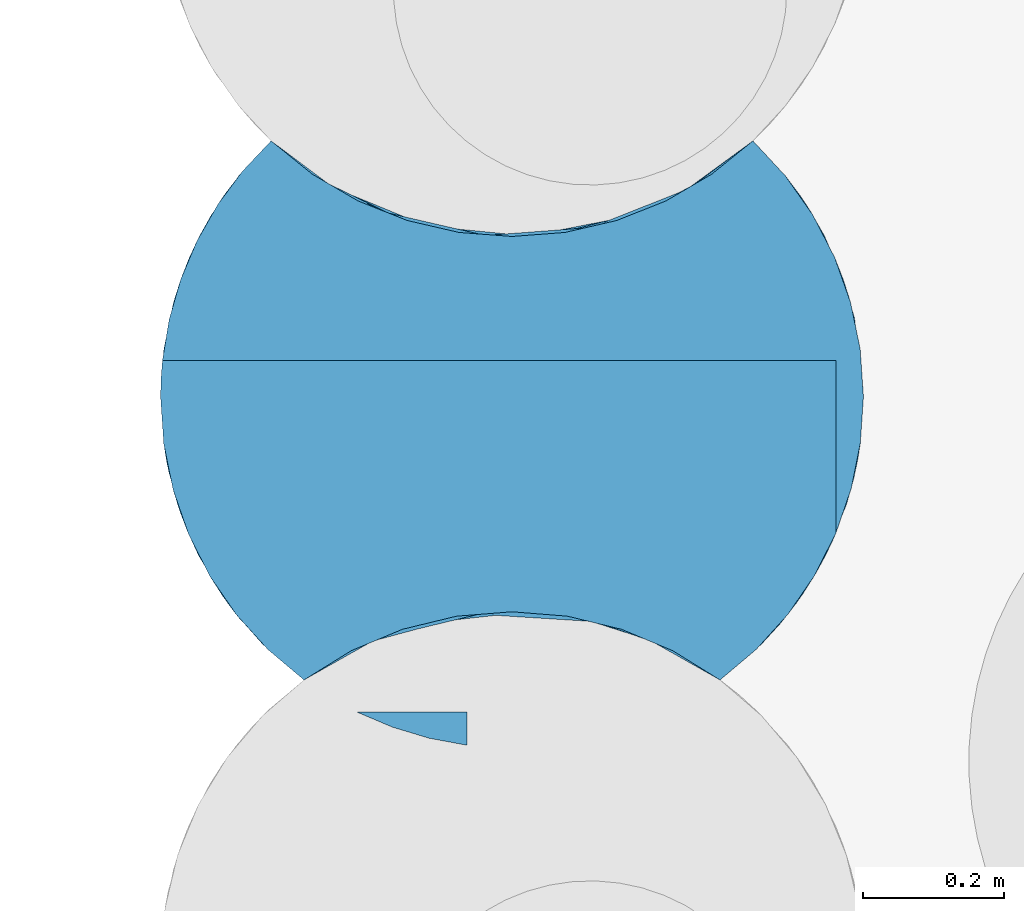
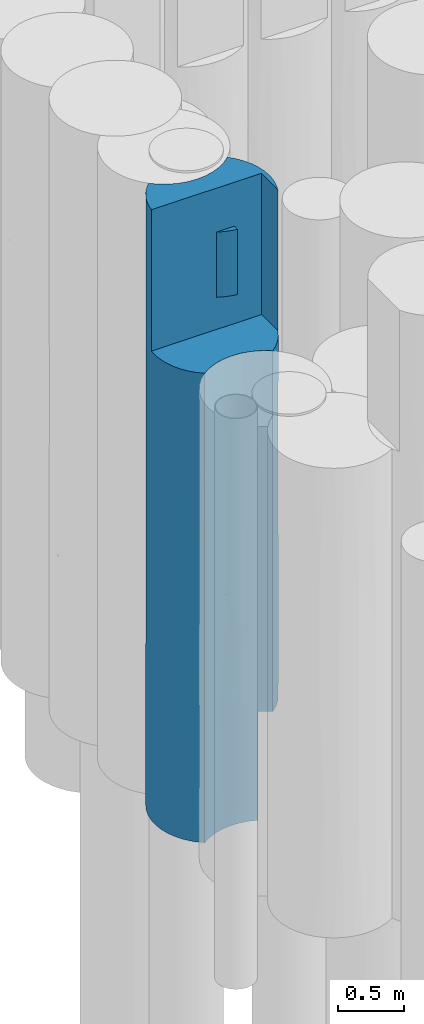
# One storey, part 33 of 104: 1 pile.
"""IFC2X3 building model written with IfcOpenShell, lengths in millimetres."""

from ifc_helpers import new_model, entity, si_unit, converted_unit, derived_unit, direction, frame, origin, place, context, subcontext, project, spatial, faceted_brep, source, transform, mapped, material, element, save


model = new_model("IFC2X3")

# Units and contexts
model_context = context("Model", 3, precision=0.01, world=origin(), true_north=direction((6.12303176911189e-17, 1.0)))
body_context = subcontext(model_context, "Body", "Model", "MODEL_VIEW")
ifc_project = project(units=[si_unit("LENGTHUNIT", "METRE", prefix="MILLI"), si_unit("AREAUNIT", "SQUARE_METRE", prefix="MILLI"), si_unit("VOLUMEUNIT", "CUBIC_METRE"), converted_unit("PLANEANGLEUNIT", "DEGREE", entity("IfcRatioMeasure", 0.0174532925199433), si_unit("PLANEANGLEUNIT", "RADIAN"), dimensions=[0, 0, 0, 0, 0, 0, 0]), si_unit("MASSUNIT", "GRAM", prefix="KILO"), derived_unit("MASSDENSITYUNIT", [(si_unit("MASSUNIT", "GRAM", prefix="KILO"), 1), (si_unit("LENGTHUNIT", "METRE"), -3)]), derived_unit("MOMENTOFINERTIAUNIT", [(si_unit("LENGTHUNIT", "METRE"), 4)]), si_unit("TIMEUNIT", "SECOND"), si_unit("FREQUENCYUNIT", "HERTZ"), si_unit("THERMODYNAMICTEMPERATUREUNIT", "DEGREE_CELSIUS"), derived_unit("THERMALTRANSMITTANCEUNIT", [(si_unit("MASSUNIT", "GRAM", prefix="KILO"), 1), (si_unit("THERMODYNAMICTEMPERATUREUNIT", "KELVIN"), -1), (si_unit("TIMEUNIT", "SECOND"), -3)]), derived_unit("VOLUMETRICFLOWRATEUNIT", [(si_unit("LENGTHUNIT", "METRE"), 3), (si_unit("TIMEUNIT", "SECOND"), -1)]), si_unit("ELECTRICCURRENTUNIT", "AMPERE"), si_unit("ELECTRICVOLTAGEUNIT", "VOLT"), si_unit("POWERUNIT", "WATT"), si_unit("FORCEUNIT", "NEWTON", prefix="KILO"), si_unit("ILLUMINANCEUNIT", "LUX"), si_unit("LUMINOUSFLUXUNIT", "LUMEN"), si_unit("LUMINOUSINTENSITYUNIT", "CANDELA"), derived_unit("USERDEFINED", [(si_unit("MASSUNIT", "GRAM", prefix="KILO"), -1), (si_unit("LENGTHUNIT", "METRE"), -2), (si_unit("TIMEUNIT", "SECOND"), 3), (si_unit("LUMINOUSFLUXUNIT", "LUMEN"), 1)]), derived_unit("LINEARVELOCITYUNIT", [(si_unit("LENGTHUNIT", "METRE"), 1), (si_unit("TIMEUNIT", "SECOND"), -1)]), si_unit("PRESSUREUNIT", "PASCAL"), derived_unit("USERDEFINED", [(si_unit("LENGTHUNIT", "METRE"), -2), (si_unit("MASSUNIT", "GRAM", prefix="KILO"), 1), (si_unit("TIMEUNIT", "SECOND"), -2)]), derived_unit("LINEARFORCEUNIT", [(si_unit("MASSUNIT", "GRAM", prefix="KILO"), 1), (si_unit("LENGTHUNIT", "METRE"), 1), (si_unit("TIMEUNIT", "SECOND"), -2), (si_unit("LENGTHUNIT", "METRE"), -1)]), derived_unit("PLANARFORCEUNIT", [(si_unit("MASSUNIT", "GRAM", prefix="KILO"), 1), (si_unit("LENGTHUNIT", "METRE"), 1), (si_unit("TIMEUNIT", "SECOND"), -2), (si_unit("LENGTHUNIT", "METRE"), -2)])], contexts=[model_context])

# Site, building, storey
site_placement = place(None, origin())
site = spatial("IfcSite", under=ifc_project, at=site_placement, Name="Theater aan de Parade", CompositionType="ELEMENT")
building_placement = place(site_placement, origin())
building = spatial("IfcBuilding", under=site, at=building_placement, Name="Theater aan de Parade", CompositionType="ELEMENT")
storey_placement = place(building_placement, frame((0.0, 0.0, -5520.0)))
storey = spatial("IfcBuildingStorey", under=building, at=storey_placement, Name="-2 kelder", CompositionType="ELEMENT", Elevation=-5520.0)

# Pile
ifc_material = material(Name="00_PBT_MAT_grout")
shared_shape = source(origin(), body_context, "Body", "Brep", [
    faceted_brep([(277.983647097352, 778.289463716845, 0.0), (345.360214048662, 750.536850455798, 0.0), (416.05429231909, 732.872245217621, 0.0), (488.564411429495, 725.670477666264, 0.0), (561.35061532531, 729.084188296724, 0.0), (632.867156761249, 743.040603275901, 0.0), (701.595316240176, 767.243095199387, 0.0), (701.595316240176, 149.758195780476, 0.0), (631.221534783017, 174.405431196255, 0.0), (557.963879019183, 188.313064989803, 0.0), (483.451164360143, 191.171328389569, 0.0), (409.34025628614, 182.91596070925, 0.0), (337.279288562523, 163.729676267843, 0.0), (268.872427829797, 134.038867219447, 0.0), (205.637504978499, 94.500645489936, 0.0), (146.540961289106, 145.454574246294, 0.0), (96.0889045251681, 204.986396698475, 0.0), (55.514075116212, 271.643244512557, 0.0), (25.8047976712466, 343.801509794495, 0.0), (7.6847395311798, 419.703565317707, 0.0), (1.5952722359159, 497.50064548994, 0.0), (6.20818208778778, 565.262219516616, 0.0), (19.955508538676, 631.750926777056, 0.0), (42.5833371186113, 695.763207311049, 0.0), (73.6726367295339, 756.116611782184, 0.0), (112.651085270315, 811.701885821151, 0.0), (158.806707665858, 861.500645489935, 0.0), (215.356100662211, 815.540724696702, 0.0), (844.383836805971, 861.500645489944, 2561.53757028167), (925.562729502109, 762.550820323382, 2004.37664659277), (890.538738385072, 811.702778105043, 1000.0), (844.383836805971, 861.500645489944, 1000.0), (960.612854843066, 695.750131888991, 1000.0), (973.014264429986, 664.126375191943, 2043.51621874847), (929.521362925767, 756.110894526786, 1000.0), (988.918247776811, 609.376994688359, 3074.84640733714), (946.092881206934, 726.458885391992, 2936.01181508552), (996.982276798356, 565.262845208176, 5620.0), (973.01057745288, 664.13680605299, 4223.55865313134), (983.235934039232, 631.747704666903, 5620.0), (1001.59527223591, 497.50064548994, 1000.0), (996.985169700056, 565.241692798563, 1000.0), (1001.59527223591, 497.50064548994, 2561.53772996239), (983.239874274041, 631.733567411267, 1000.0), (1001.59527223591, 497.50064548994, 5620.0), (1001.59527223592, 497.50064548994, 4123.0754599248), (921.086992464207, 769.579120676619, 3953.28672590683), (910.97924365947, 784.562945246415, 4807.59706393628), (844.383836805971, 861.500645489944, 5620.0), (890.546518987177, 811.693146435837, 5620.0), (1001.59527223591, 497.500645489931, 4058.46229404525), (1001.59527223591, 497.50064548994, 3310.0), (929.522999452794, 756.108186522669, 5620.0), (960.609902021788, 695.756968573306, 5620.0), (844.383836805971, 861.500645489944, 4123.07557016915), (39.2495698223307, 307.141901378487, 1085.47852696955), (10.5871918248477, 403.102208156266, 1230.87349493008), (108.514744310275, 188.489806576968, 1268.80770928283), (6.07384663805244, 430.728519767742, 4320.0), (1.5952722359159, 497.50064548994, 4320.0), (1.5952722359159, 497.50064548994, 3539.22668099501), (1.5952722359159, 497.50064548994, 2758.46161244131), (55.5152442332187, 271.640935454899, 2170.94919135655), (154.473180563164, 137.630872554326, 4320.0), (109.538421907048, 187.192047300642, 4320.0), (89.6582804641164, 214.114134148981, 3179.44495783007), (29.3565435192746, 333.212535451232, 3179.44239873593), (41.4053328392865, 301.987935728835, 4320.0), (205.63750497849, 94.500645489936, 1561.53770715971), (13.2670160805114, 390.097134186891, 2156.04284889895), (19.4236650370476, 365.173243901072, 4320.0), (114.108901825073, 181.503315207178, 2259.08321984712), (205.637504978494, 94.500645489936, 2758.46229284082), (205.637504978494, 94.500645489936, 3240.0), (205.637504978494, 94.500645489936, 4320.0), (71.6236476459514, 242.305813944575, 4320.0), (205.637504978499, 94.500645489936, 780.765851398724), (1.5952722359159, 497.50064548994, 1561.53838755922), (205.637504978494, 94.500645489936, 2160.0), (1.5952722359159, 497.50064548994, 1379.23134188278), (785.695330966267, 814.055440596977, 5620.0), (720.53458465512, 775.983596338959, 5620.0), (650.386060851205, 748.152448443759, 5620.0), (576.847851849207, 731.19603367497, 5620.0), (501.595272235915, 725.50064548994, 5620.0), (426.342692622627, 731.19603367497, 5620.0), (352.804483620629, 748.152448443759, 5620.0), (282.655959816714, 775.983596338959, 5620.0), (217.495213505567, 814.055440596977, 5620.0), (158.806707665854, 861.500645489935, 5620.0), (118.06502891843, 818.288039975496, 5620.0), (82.7473886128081, 770.569227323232, 5620.0), (53.3353113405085, 719.002355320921, 5620.0), (30.2422997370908, 664.313041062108, 5620.0), (13.7936272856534, 607.271111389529, 5620.0), (4.22225516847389, 548.68738101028, 5620.0), (437.737142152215, 548.68738101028, 5620.0), (962.737142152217, 548.68738101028, 5620.0), (962.737142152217, 304.243884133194, 5620.0), (984.195534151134, 366.745197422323, 5620.0), (997.224025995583, 431.529906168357, 5620.0), (380.385030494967, 740.415006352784, 924.275465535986), (158.806707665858, 861.500645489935, 1561.53277368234), (245.990356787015, 795.772676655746, 924.276593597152), (234.516339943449, 802.80827043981, 2528.73879673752), (311.165685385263, 763.184117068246, 1643.61885605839), (233.568091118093, 803.408913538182, 1720.94598732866), (249.356261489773, 793.788378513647, 4653.15154121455), (613.937329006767, 738.284818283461, 4657.58649053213), (753.83428304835, 793.788378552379, 4657.58649064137), (463.861374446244, 726.926525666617, 4239.53806968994), (568.099118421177, 729.94314282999, 3565.77493434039), (525.01978227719, 726.049654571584, 1444.27819300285), (229.918347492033, 805.748756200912, 3590.76885371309), (158.806707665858, 861.500645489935, 3123.09076306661), (158.806707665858, 861.500645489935, 4058.46722631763), (463.861374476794, 726.926525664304, 2816.1191413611), (317.204383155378, 760.742643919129, 3895.88208545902), (335.873418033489, 753.763147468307, 2764.08817655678), (335.46058122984, 753.908380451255, 4756.81311890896), (668.83807380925, 754.30021539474, 2439.8399368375), (744.325145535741, 788.371135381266, 2923.53519747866), (764.865708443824, 800.4257374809, 2048.02698245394), (701.595316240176, 767.243095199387, 1000.0), (605.974790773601, 736.517091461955, 894.949894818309), (685.986161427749, 760.742643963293, 3905.98762819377), (772.723458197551, 805.394103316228, 3773.13756015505), (800.501613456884, 824.682732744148, 1000.0), (414.783427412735, 733.094610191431, 1897.22784494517), (566.969314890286, 729.792833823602, 2589.73847091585), (752.696294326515, 793.125488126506, 1000.0), (158.806707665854, 861.500645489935, 2496.92232234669), (20.2907372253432, 632.947847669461, 926.687005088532), (19.303972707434, 629.391139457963, 3148.84671832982), (84.9997262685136, 773.993233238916, 2029.23114561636), (30.181655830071, 664.141583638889, 1803.28903709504), (40.9764307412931, 692.000729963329, 4282.56271257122), (4.22225516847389, 548.687381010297, 4320.0), (57.1024527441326, 726.46818340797, 982.700397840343), (2.25244985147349, 523.127696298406, 4320.0), (89.6901365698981, 780.93345800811, 3277.69343556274), (94.1078779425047, 787.248852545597, 4587.17417451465), (272.892689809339, 136.129849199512, 4320.0), (345.871157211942, 166.632206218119, 4320.0), (422.746620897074, 185.244395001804, 4320.0), (501.595272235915, 191.500645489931, 4320.0), (580.443923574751, 185.244395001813, 4320.0), (657.319387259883, 166.632206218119, 4320.0), (730.297854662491, 136.129849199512, 4320.0), (797.553039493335, 94.500645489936, 4320.0), (849.134821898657, 138.034010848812, 4320.0), (894.392773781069, 188.130118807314, 4320.0), (932.4900822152, 243.867716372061, 4320.0), (962.737142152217, 304.243884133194, 4320.0), (962.737142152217, 548.687381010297, 4320.0), (962.737142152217, 548.687381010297, 5020.0), (619.25027197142, 177.460830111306, 2675.35053062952), (618.769970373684, 177.576863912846, 1644.82954604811), (709.754986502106, 146.109854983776, 2171.15328983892), (520.760878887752, 191.133189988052, 1157.90862518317), (604.099971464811, 180.880647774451, 808.258389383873), (797.553039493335, 94.500645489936, 2561.53958617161), (694.412724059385, 152.826376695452, 3376.98180358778), (701.595316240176, 149.758195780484, 1000.0), (797.553039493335, 94.500645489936, 1000.0), (797.553039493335, 94.500645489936, 1780.76979308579), (751.108572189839, 124.793979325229, 1000.0), (462.047040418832, 189.934128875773, 3261.5512699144), (446.241595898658, 188.427169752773, 2151.88442833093), (372.951586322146, 174.668113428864, 1157.91149077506), (797.553039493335, 94.500645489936, 3440.76979308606), (287.845109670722, 143.508242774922, 862.855746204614), (308.777819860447, 152.826376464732, 2994.94020212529), (607.90940523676, 180.067227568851, 3514.2556970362), (298.523841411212, 148.405442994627, 1883.75005471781), (797.553039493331, 94.500645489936, 1879.22367025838), (797.553039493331, 94.500645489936, 2758.44734051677), (995.505941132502, 419.704429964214, 1000.0), (977.386267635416, 343.803122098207, 1000.0), (947.677598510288, 271.645474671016, 1000.0), (907.103557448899, 204.989054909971, 1000.0), (856.652419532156, 145.457434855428, 1000.0), (883.041137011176, 174.2375138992, 2157.57493787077), (948.634062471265, 273.544578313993, 2674.46087503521), (988.592794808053, 384.215990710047, 2935.76885282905), (958.625624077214, 294.711943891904, 3485.93669528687), (934.34701331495, 247.049191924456, 1840.34439177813), (987.92908925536, 381.39974789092, 1934.80000843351), (914.383263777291, 215.355161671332, 3409.36810700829), (987.053048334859, 377.789544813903, 3800.63573656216), (993.086140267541, 405.648989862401, 4627.10948217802)], [[[0, 1, 2, 3, 4, 5, 6, 7, 8, 9, 10, 11, 12, 13, 14, 15, 16, 17, 18, 19, 20, 21, 22, 23, 24, 25, 26, 27]], [[28, 29, 30]], [[28, 30, 31]], [[32, 29, 33]], [[32, 34, 29]], [[35, 33, 36]], [[37, 38, 39]], [[40, 41, 42]], [[41, 43, 33]], [[37, 44, 45]], [[33, 35, 42]], [[37, 45, 38]], [[38, 46, 47]], [[47, 48, 49]], [[43, 32, 33]], [[35, 45, 50, 51, 42]], [[49, 52, 47]], [[41, 33, 42]], [[36, 46, 38]], [[45, 35, 38]], [[38, 53, 39]], [[47, 53, 38]], [[36, 38, 35]], [[30, 29, 34]], [[36, 33, 29]], [[28, 36, 29]], [[46, 28, 54]], [[28, 46, 36]], [[48, 47, 54]], [[47, 52, 53]], [[54, 47, 46]], [[18, 55, 56]], [[15, 57, 16]], [[17, 57, 55]], [[57, 17, 16]], [[58, 59, 60, 61]], [[55, 57, 62]], [[63, 64, 65]], [[58, 61, 66]], [[66, 65, 67]], [[68, 57, 15]], [[66, 62, 65]], [[61, 69, 66]], [[58, 66, 70]], [[69, 55, 62]], [[71, 65, 62]], [[62, 57, 71]], [[63, 65, 72]], [[63, 72, 73, 74]], [[18, 17, 55]], [[64, 75, 65]], [[15, 14, 76, 68]], [[67, 65, 75]], [[67, 70, 66]], [[69, 62, 66]], [[69, 61, 77]], [[20, 19, 56]], [[55, 69, 56]], [[71, 68, 78, 72]], [[69, 77, 56]], [[68, 71, 57]], [[72, 65, 71]], [[56, 77, 79, 20]], [[18, 56, 19]], [[80, 81, 82, 83, 84, 85, 86, 87, 88, 89, 90, 91, 92, 93, 94, 95, 96, 97, 98, 99, 100, 44, 37, 39, 53, 52, 49, 48]], [[0, 101, 1]], [[102, 103, 26]], [[104, 105, 106]], [[107, 88, 87]], [[103, 105, 101]], [[83, 108, 84]], [[54, 109, 48]], [[27, 26, 103]], [[110, 108, 111]], [[110, 85, 84]], [[103, 101, 0]], [[109, 80, 48]], [[108, 82, 81, 109]], [[112, 4, 3]], [[113, 114, 115]], [[116, 117, 110]], [[106, 105, 103]], [[113, 118, 104]], [[119, 107, 87]], [[120, 121, 122]], [[123, 120, 122]], [[2, 101, 3]], [[5, 124, 123]], [[107, 115, 89]], [[125, 111, 108]], [[5, 123, 6]], [[126, 109, 54]], [[119, 117, 107]], [[122, 28, 31]], [[119, 86, 85]], [[101, 112, 3]], [[108, 109, 125]], [[119, 87, 86]], [[0, 27, 103]], [[120, 124, 112]], [[127, 122, 31]], [[110, 84, 108]], [[5, 4, 124]], [[118, 128, 105]], [[109, 81, 80]], [[2, 1, 101]], [[125, 120, 111]], [[101, 105, 128]], [[125, 109, 126]], [[83, 82, 108]], [[116, 112, 128]], [[88, 107, 89]], [[115, 107, 113]], [[111, 116, 110]], [[120, 129, 111]], [[129, 116, 111]], [[122, 130, 123]], [[101, 128, 112]], [[117, 116, 118]], [[128, 118, 116]], [[113, 117, 118]], [[104, 114, 113]], [[117, 113, 107]], [[104, 102, 131, 114]], [[104, 118, 105]], [[120, 125, 121]], [[126, 54, 28]], [[119, 110, 117]], [[110, 119, 85]], [[106, 102, 104]], [[106, 103, 102]], [[129, 112, 116]], [[129, 120, 112]], [[123, 124, 120]], [[112, 124, 4]], [[130, 122, 127]], [[126, 28, 121]], [[122, 121, 28]], [[126, 121, 125]], [[132, 23, 22]], [[133, 134, 135]], [[136, 137, 94]], [[25, 138, 102]], [[138, 134, 102]], [[136, 133, 137]], [[137, 60, 139]], [[102, 26, 25]], [[137, 133, 60]], [[60, 133, 61]], [[133, 136, 140]], [[138, 23, 132]], [[20, 79, 21]], [[133, 140, 134]], [[132, 21, 79]], [[135, 61, 133]], [[136, 92, 141]], [[90, 89, 141]], [[140, 115, 114, 131]], [[92, 136, 93]], [[141, 92, 91]], [[136, 94, 93]], [[131, 102, 134]], [[95, 94, 137]], [[89, 115, 141]], [[25, 24, 138]], [[139, 60, 59]], [[131, 134, 140]], [[135, 79, 77, 61]], [[135, 138, 132]], [[134, 138, 135]], [[23, 138, 24]], [[141, 140, 136]], [[21, 132, 22]], [[79, 135, 132]], [[90, 141, 91]], [[140, 141, 115]], [[63, 74, 142, 143, 144, 145, 146, 147, 148, 149, 150, 151, 152, 153, 154, 137, 139, 59, 58, 70, 67, 75, 64]], [[155, 97, 96, 95, 137, 154]], [[155, 154, 153, 98, 97]], [[156, 157, 158]], [[9, 159, 10]], [[9, 160, 159]], [[161, 162, 158]], [[7, 163, 8]], [[164, 165, 166]], [[167, 168, 156]], [[162, 156, 158]], [[163, 158, 157]], [[11, 169, 12]], [[162, 170, 148]], [[13, 171, 76]], [[172, 143, 142]], [[173, 156, 162]], [[144, 167, 145]], [[10, 159, 11]], [[165, 158, 166]], [[159, 169, 11]], [[173, 146, 145]], [[172, 142, 73]], [[13, 12, 171]], [[160, 157, 159]], [[169, 159, 168]], [[171, 174, 76]], [[174, 171, 169]], [[76, 14, 13]], [[167, 173, 145]], [[172, 167, 143]], [[142, 74, 73]], [[163, 166, 158]], [[169, 168, 174]], [[148, 147, 162]], [[144, 143, 167]], [[156, 168, 157]], [[162, 147, 173]], [[168, 167, 172]], [[158, 165, 175, 161]], [[8, 163, 160]], [[159, 157, 168]], [[174, 78, 68, 76]], [[169, 171, 12]], [[174, 172, 78]], [[172, 174, 168]], [[156, 173, 167]], [[146, 173, 147]], [[157, 160, 163]], [[8, 160, 9]], [[172, 73, 72, 78]], [[149, 148, 170]], [[162, 161, 176, 170]], [[30, 34, 32, 43, 41, 40, 177, 178, 179, 180, 181, 164, 166, 163, 123, 130, 127, 31]], [[163, 7, 6, 123]], [[181, 180, 182]], [[183, 184, 185]], [[186, 183, 182]], [[187, 177, 40]], [[183, 187, 184]], [[188, 176, 182]], [[186, 178, 187]], [[181, 182, 175]], [[180, 179, 186]], [[150, 176, 188]], [[151, 188, 152]], [[150, 149, 170, 176]], [[152, 188, 185]], [[189, 185, 184]], [[185, 188, 183]], [[187, 42, 184]], [[184, 42, 51]], [[182, 183, 188]], [[51, 50, 189]], [[190, 50, 45, 44]], [[44, 100, 190]], [[98, 153, 99]], [[181, 175, 165, 164]], [[190, 189, 50]], [[178, 177, 187]], [[40, 42, 187]], [[188, 151, 150]], [[153, 152, 185]], [[186, 187, 183]], [[99, 153, 190]], [[99, 190, 100]], [[153, 185, 189]], [[189, 184, 51]], [[153, 189, 190]], [[180, 186, 182]], [[186, 179, 178]], [[182, 176, 161, 175]]]),
    faceted_brep([(331.599089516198, 27.2865475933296, 5020.0), (281.216839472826, 48.6873810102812, 5020.0), (437.737142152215, 48.6873810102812, 5020.0), (437.737142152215, 1.5952722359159, 5020.0), (383.953346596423, 11.5372957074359, 5020.0), (281.216839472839, 48.6873810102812, 5620.0), (331.604635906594, 27.2845424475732, 5620.0), (383.962172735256, 11.535159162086, 5620.0), (437.737142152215, 1.5952722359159, 5620.0), (437.737142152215, 48.6873810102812, 5620.0)], [[[0, 1, 2, 3, 4]], [[1, 0, 5]], [[6, 5, 0]], [[0, 4, 6]], [[4, 3, 7]], [[8, 7, 3]], [[4, 7, 6]], [[9, 2, 1, 5]], [[3, 2, 9, 8]], [[6, 7, 8, 9, 5]]]),
])
pile_placement = place(storey_placement, frame((34252.2628578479, 39771.3126189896, -3840.0)))
element("IfcPile", 1, at=pile_placement, inside=storey, material=ifc_material, Name="17_PBT_SFO_grondkering_rond:Ø1000 (grondkering)", ObjectType="17_PBT_SFO_grondkering_rond:Ø1000 (grondkering)", PredefinedType="NOTDEFINED", context=body_context, shape_type="MappedRepresentation", body=[
    mapped(shared_shape, transform((0.0, 0.0, 0.0), scale=1.0)),
])

save(model, "model.ifc")
